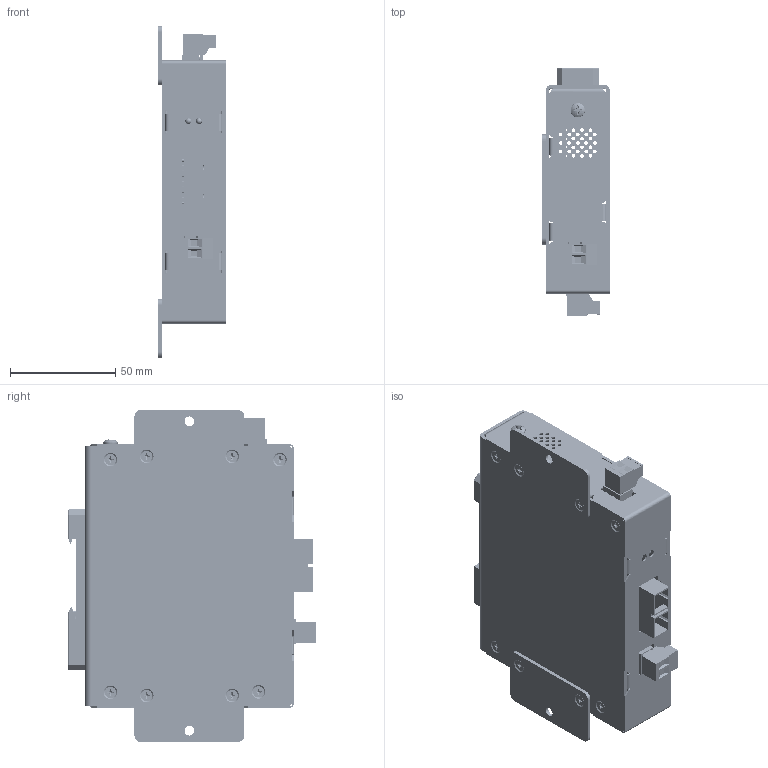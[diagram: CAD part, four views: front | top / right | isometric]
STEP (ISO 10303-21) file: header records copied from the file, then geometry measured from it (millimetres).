
FILE_DESCRIPTION(/* description */ ('STEP AP242','CAx-IF Rec.Pracs.---Representation and Presentation of Product Manufacturing Information (PMI)---4.0---2014-10-13','CAx-IF Rec.Pracs.---3D Tessellated Geometry---0.4---2014-09-14','2;1'),/* implementation_level */ '2;1');
FILE_NAME(/* name */ '619bef3cdcd30f5c3a67aae8',/* time_stamp */ '2021-11-22T19:27:59+00:00',/* author */ (''),/* organization */ (''),/* preprocessor_version */ 'ST-DEVELOPER v18.1',/* originating_system */ ' ',/* authorisation */ ' ');
FILE_SCHEMA (('AP242_MANAGED_MODEL_BASED_3D_ENGINEERING_MIM_LF { 1 0 10303 442 1 1 4 }'));
Products named in the file (25): CD-403 - AD-XXXXX-XX-1-Transmitter-Wall Rev B; 96640A334_Black-Oxide 18-8 Stainless Steel Phillips Flat Head Screws; SMTSO-440-8ET-PennEngineering-3D-09-30-2021; 91772A144_Passivated 18-8 Stainless Steel Pan Head Phillips Screw; 96640A115_Black-Oxide 18-8 Stainless Steel Phillips Flat Head Screws; Part 1; DINM12-RC-Assy <1>; Spring clip; spring^DINM12-RC-Assy; DINM12-RC; H-133 - 4-20mA DIN Front Housing <1>; PRODUCT_NAME_1; H-105 Rear Housing <1>; 95185A130_Zinc-Plated Steel Press-Fit Nut for Sheet Metal; PCB-ADH-420TX-XX-1 <1>; C-796638-2; C-796634-2
Assembly tree (59 placements, depth 3):
  CD-403 - AD-XXXXX-XX-1-Transmitter-Wall Rev B
    96640A334_Black-Oxide 18-8 Stainless Steel Phillips Flat Head Screws  x14
    SMTSO-440-8ET-PennEngineering-3D-09-30-2021  x4
    91772A144_Passivated 18-8 Stainless Steel Pan Head Phillips Screw
    96640A115_Black-Oxide 18-8 Stainless Steel Phillips Flat Head Screws  x3
    Part 1  x2
    DINM12-RC-Assy <1>
      Spring clip
      spring^DINM12-RC-Assy
      spring^DINM12-RC-Assy
      DINM12-RC
    H-133 - 4-20mA DIN Front Housing <1>
      Part 1
      PRODUCT_NAME_1  x10
      PRODUCT_NAME_1
    H-105 Rear Housing <1>
      Part 1
      95185A130_Zinc-Plated Steel Press-Fit Nut for Sheet Metal  x3
    PCB-ADH-420TX-XX-1 <1>
      Part 1
      C-796638-2  x2
      Part 1  x4
      C-796634-2  x2
      Part 1
      Part 1
Bounding box: 32.1 x 117.7 x 157.99 mm (x, y, z)
Volume: 89298.1 mm3; surface area: 127260.5 mm2
Topology: 54 solids, 55 shells, 3203 faces, 9495 edges, 6559 vertices
Faces by surface type: plane 2008, cylinder 901, cone 204, bspline 50, torus 33, sphere 7
Full cylindrical faces by diameter (mm): 0.45 x9, 0.5 x1, 0.9 x4, 1.3 x4, 1.905 x143, 2.156 x14, 2.647 x1, 2.845 x112, 2.9 x2, 3.251 x18, 3.505 x24, 3.556 x2, 4 x7, 4.089 x4, 4.191 x10, 4.216 x14, 4.572 x2, 4.724 x1, 4.75 x1, 4.763 x3, 4.826 x3, 4.889 x10, 5.41 x8, 5.563 x13, 5.588 x10, 6.401 x1, 6.858 x1, 7.112 x3, 7.5 x1, 7.62 x8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
Entity records: 62544 total; most frequent: CARTESIAN_POINT 17650, DIRECTION 8471, ORIENTED_EDGE 8462, EDGE_CURVE 4233, VERTEX_POINT 2979, AXIS2_PLACEMENT_3D 2918, LINE 2635, VECTOR 2635
